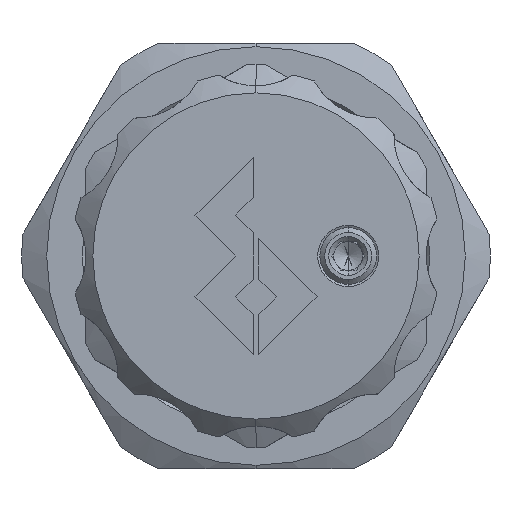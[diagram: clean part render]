
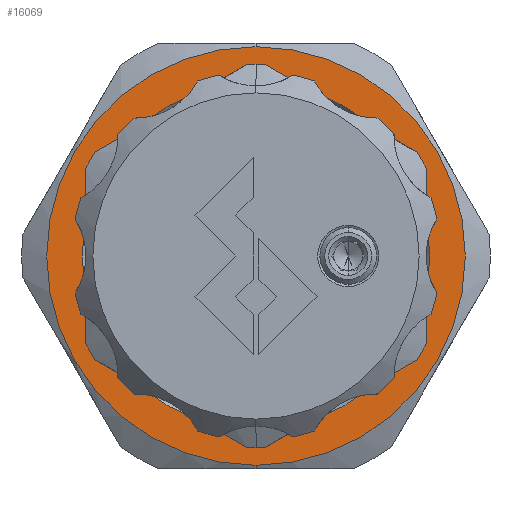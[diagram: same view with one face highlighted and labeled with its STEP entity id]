
A CAD part, left-side view. The second image highlights one B-rep face of the part: STEP entity #16069.
In plain terms, the highlighted planar face has unit normal (-1, 0, 0).
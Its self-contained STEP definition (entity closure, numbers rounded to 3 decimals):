
#335 = DIRECTION ( 'NONE',  ( -1., 0., 0. ) ) ;
#1601 = EDGE_LOOP ( 'NONE', ( #5603, #2976 ) ) ;
#2510 = CARTESIAN_POINT ( 'NONE',  ( -10.6, 0., 0. ) ) ;
#2961 = FACE_BOUND ( 'NONE', #1601, .T. ) ;
#2976 = ORIENTED_EDGE ( 'NONE', *, *, #5051, .F. ) ;
#3282 = CARTESIAN_POINT ( 'NONE',  ( -10.6, 0., 0. ) ) ;
#3672 = CARTESIAN_POINT ( 'NONE',  ( -10.6, 0., 0. ) ) ;
#3807 = DIRECTION ( 'NONE',  ( 0., 0., -1. ) ) ;
#3875 = CARTESIAN_POINT ( 'NONE',  ( -10.6, 0., -14.75 ) ) ;
#3884 = CIRCLE ( 'NONE', #11240, 14.75 ) ;
#4331 = DIRECTION ( 'NONE',  ( -1., 0., 0. ) ) ;
#4615 = DIRECTION ( 'NONE',  ( 0., 0., -1. ) ) ;
#4999 = DIRECTION ( 'NONE',  ( 0., 0., -1. ) ) ;
#5051 = EDGE_CURVE ( 'NONE', #14638, #8103, #5275, .T. ) ;
#5275 = CIRCLE ( 'NONE', #11393, 12.25 ) ;
#5603 = ORIENTED_EDGE ( 'NONE', *, *, #8365, .F. ) ;
#6025 = AXIS2_PLACEMENT_3D ( 'NONE', #8174, #335, #9487 ) ;
#6410 = AXIS2_PLACEMENT_3D ( 'NONE', #3282, #12409, #4615 ) ;
#7256 = ORIENTED_EDGE ( 'NONE', *, *, #11173, .T. ) ;
#7733 = VERTEX_POINT ( 'NONE', #8798 ) ;
#8103 = VERTEX_POINT ( 'NONE', #13411 ) ;
#8174 = CARTESIAN_POINT ( 'NONE',  ( -10.6, 0., 0. ) ) ;
#8201 = EDGE_CURVE ( 'NONE', #7733, #13516, #12117, .T. ) ;
#8365 = EDGE_CURVE ( 'NONE', #8103, #14638, #12524, .T. ) ;
#8798 = CARTESIAN_POINT ( 'NONE',  ( -10.6, 0., 14.75 ) ) ;
#9487 = DIRECTION ( 'NONE',  ( 0., 0., -1. ) ) ;
#9576 = AXIS2_PLACEMENT_3D ( 'NONE', #3672, #12799, #4999 ) ;
#9910 = FACE_OUTER_BOUND ( 'NONE', #12115, .T. ) ;
#10286 = CARTESIAN_POINT ( 'NONE',  ( -10.6, 0., 12.25 ) ) ;
#11173 = EDGE_CURVE ( 'NONE', #13516, #7733, #3884, .T. ) ;
#11240 = AXIS2_PLACEMENT_3D ( 'NONE', #2510, #11634, #3807 ) ;
#11393 = AXIS2_PLACEMENT_3D ( 'NONE', #12118, #4331, #13412 ) ;
#11634 = DIRECTION ( 'NONE',  ( -1., 0., 0. ) ) ;
#12115 = EDGE_LOOP ( 'NONE', ( #14326, #7256 ) ) ;
#12117 = CIRCLE ( 'NONE', #6410, 14.75 ) ;
#12118 = CARTESIAN_POINT ( 'NONE',  ( -10.6, 0., 0. ) ) ;
#12409 = DIRECTION ( 'NONE',  ( -1., 0., 0. ) ) ;
#12524 = CIRCLE ( 'NONE', #9576, 12.25 ) ;
#12799 = DIRECTION ( 'NONE',  ( -1., 0., 0. ) ) ;
#13240 = PLANE ( 'NONE',  #6025 ) ;
#13411 = CARTESIAN_POINT ( 'NONE',  ( -10.6, 0., -12.25 ) ) ;
#13412 = DIRECTION ( 'NONE',  ( 0., 0., -1. ) ) ;
#13516 = VERTEX_POINT ( 'NONE', #3875 ) ;
#14326 = ORIENTED_EDGE ( 'NONE', *, *, #8201, .T. ) ;
#14638 = VERTEX_POINT ( 'NONE', #10286 ) ;
#16069 = ADVANCED_FACE ( 'NONE', ( #2961, #9910 ), #13240, .T. ) ;
